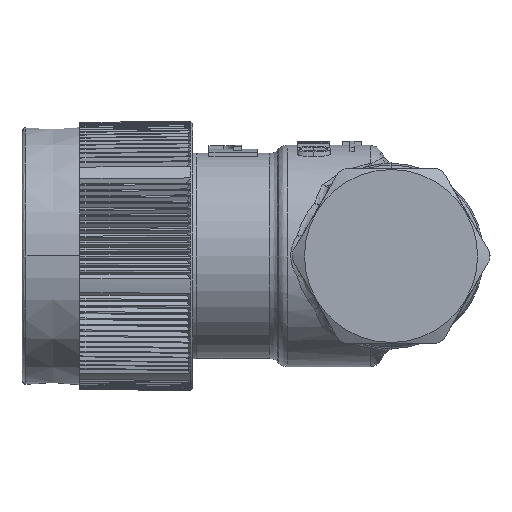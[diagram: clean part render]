
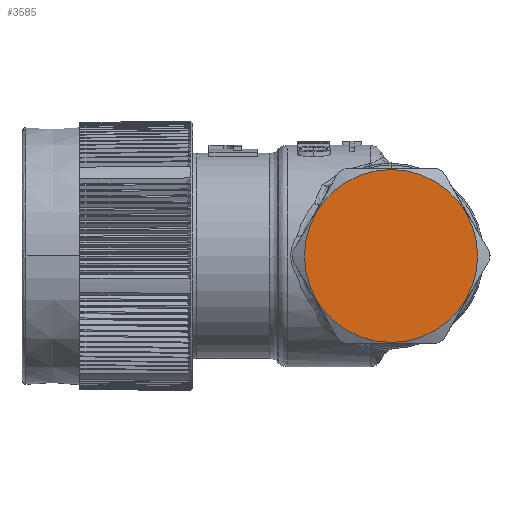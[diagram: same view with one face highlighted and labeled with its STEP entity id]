
A CAD part, left-side view. The second image highlights one B-rep face of the part: STEP entity #3585.
In plain terms, the highlighted planar face has unit normal (-1, 0, 0).
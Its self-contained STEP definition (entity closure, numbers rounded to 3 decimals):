
#3450 = DIRECTION ( 'NONE',  ( 1., 0., 0. ) ) ;
#3585 = ADVANCED_FACE ( 'NONE', ( #17294 ), #9374, .F. ) ;
#3965 = VERTEX_POINT ( 'NONE', #12510 ) ;
#4687 = CARTESIAN_POINT ( 'NONE',  ( -25.5, 0., -10.75 ) ) ;
#4929 = EDGE_LOOP ( 'NONE', ( #24022, #14510 ) ) ;
#5406 = CARTESIAN_POINT ( 'NONE',  ( -25.5, 0., 0. ) ) ;
#7145 = EDGE_CURVE ( 'NONE', #23964, #3965, #14800, .T. ) ;
#8232 = DIRECTION ( 'NONE',  ( 1., 0., 0. ) ) ;
#9374 = PLANE ( 'NONE',  #11664 ) ;
#11664 = AXIS2_PLACEMENT_3D ( 'NONE', #13490, #20248, #19983 ) ;
#12510 = CARTESIAN_POINT ( 'NONE',  ( -25.5, 0., 10.75 ) ) ;
#12721 = AXIS2_PLACEMENT_3D ( 'NONE', #5406, #3450, #18745 ) ;
#13490 = CARTESIAN_POINT ( 'NONE',  ( -25.5, -7.475, 0. ) ) ;
#14510 = ORIENTED_EDGE ( 'NONE', *, *, #25567, .F. ) ;
#14601 = CARTESIAN_POINT ( 'NONE',  ( -25.5, 0., 0. ) ) ;
#14800 = CIRCLE ( 'NONE', #18467, 10.75 ) ;
#17294 = FACE_OUTER_BOUND ( 'NONE', #4929, .T. ) ;
#18467 = AXIS2_PLACEMENT_3D ( 'NONE', #14601, #8232, #23445 ) ;
#18745 = DIRECTION ( 'NONE',  ( 0., 0., -1. ) ) ;
#19983 = DIRECTION ( 'NONE',  ( 0., 0., -1. ) ) ;
#20248 = DIRECTION ( 'NONE',  ( 1., 0., 0. ) ) ;
#23445 = DIRECTION ( 'NONE',  ( 0., 0., -1. ) ) ;
#23964 = VERTEX_POINT ( 'NONE', #4687 ) ;
#24022 = ORIENTED_EDGE ( 'NONE', *, *, #7145, .F. ) ;
#25567 = EDGE_CURVE ( 'NONE', #3965, #23964, #26087, .T. ) ;
#26087 = CIRCLE ( 'NONE', #12721, 10.75 ) ;
